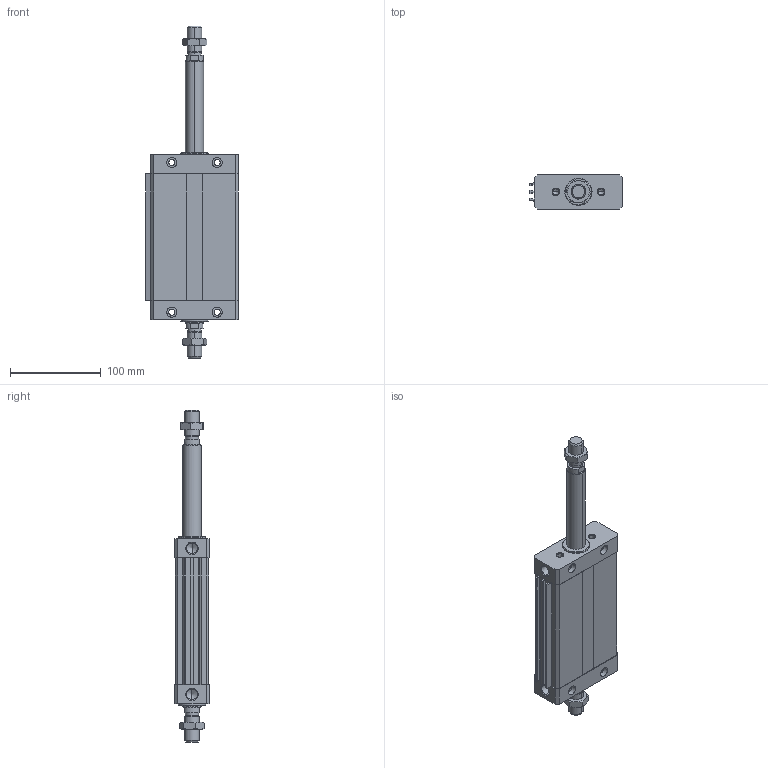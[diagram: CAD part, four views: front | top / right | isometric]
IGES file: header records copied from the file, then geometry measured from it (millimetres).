
Global section: file name: No Iges File Name specified; native system: Autodesk Inventor 2011; preprocessor: AutoDesk Inventor Iges Exporter R2011; author: airolcr1; date: 20101213.153332; units: millimetre
Bounding box: 102.5 x 38 x 366 mm (x, y, z)
Volume: 527875.2 mm3; surface area: 143070.7 mm2
Topology: 6 solids, 6 shells, 280 faces, 664 edges, 396 vertices
Faces by surface type: bspline 114, plane 98, cone 36, cylinder 18, revolution 14
